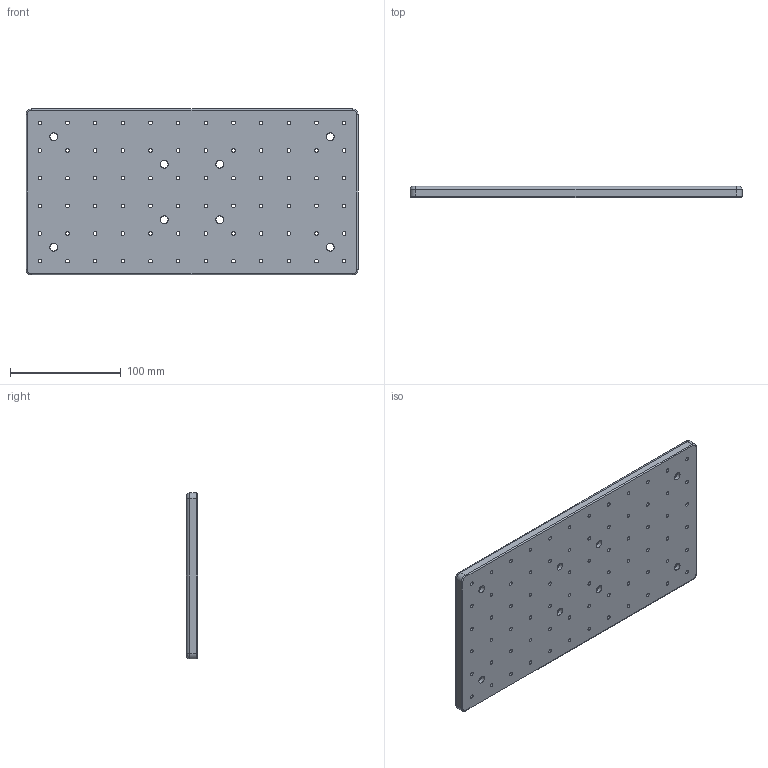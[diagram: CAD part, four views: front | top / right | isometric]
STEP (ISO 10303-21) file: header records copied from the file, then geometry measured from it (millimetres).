
FILE_DESCRIPTION (( 'STEP AP203' ), '1' );
FILE_NAME ('M-PAB-1530-10.step', '2017-01-10T01:14:56', ( '¦K¬P' ), ( '' ), 'SwSTEP 2.0', 'SolidWorks 2012', '' );
FILE_SCHEMA (( 'CONFIG_CONTROL_DESIGN' ));
Length unit declared in the file: millimetre
Products named in the file (1): M-PAB-1530-10
Bounding box: 300 x 10 x 150 mm (x, y, z)
Volume: 435748.6 mm3; surface area: 105356.1 mm2
Topology: 1 solids, 1 shells, 122 faces, 320 edges, 208 vertices
Faces by surface type: cylinder 100, plane 14, torus 8
Full cylindrical faces by diameter (mm): 3.3 x72, 7 x8, 11 x8
Entity records: 3821 total; most frequent: DIRECTION 686, CARTESIAN_POINT 563, ORIENTED_EDGE 464, EDGE_LOOP 378, AXIS2_PLACEMENT_3D 331, EDGE_CURVE 232, FACE_OUTER_BOUND 210, CIRCLE 208
